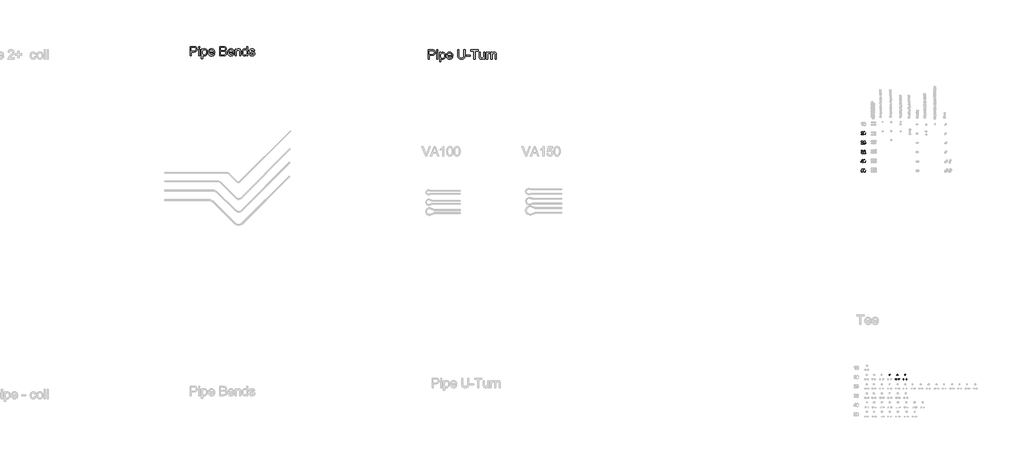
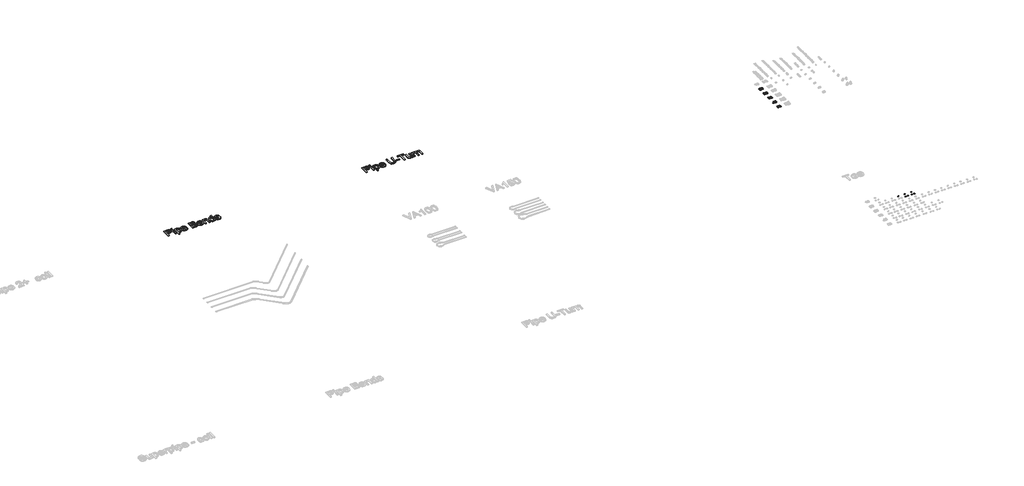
# One storey, part 21 of 26: 14 proxies.
"""IFC4 building model written with IfcOpenShell, lengths in millimetres."""

from ifc_helpers import new_model, si_unit, origin, origin_with_axes, place, context, project, spatial, polyline, outline, extrude, element, save

model = new_model("IFC4")

# Units and contexts
model_context = context("Model", 3, world=origin())
ifc_project = project(units=[si_unit("LENGTHUNIT", "METRE", prefix="MILLI")], contexts=[model_context])

# Site, building, storey
site = spatial("IfcSite", under=ifc_project)
building = spatial("IfcBuilding", under=site)
storey = spatial("IfcBuildingStorey", under=building, Name="Superpipe UFH", Elevation=0.0)

# Proxies
placement = place(None, origin())
element("IfcBuildingElementProxy", 1, Name="100mm Arial", ObjectType="100mm Arial", at=placement, inside=storey, context=model_context, shape_type="SweptSolid", body=[
    extrude(outline(polyline([(25462.3564217, 31886.1330588), (25462.3564217, 31873.57602), (25396.4319682, 31873.57602), (25397.7808688, 31882.2335096), (25405.4082889, 31895.5631006), (25421.1291128, 31910.1189648), (25442.809625, 31931.0391876), (25448.2297531, 31945.2639581), (25443.1161934, 31956.7786646), (25429.762077, 31961.4752914), (25415.8438748, 31956.8890292), (25410.5586368, 31944.2093631), (25398.001598, 31945.7789929), (25401.0458215, 31957.9252301), (25407.6278436, 31966.7973176), (25417.4043076, 31972.223577), (25430.0318571, 31974.0323301), (25442.7513771, 31972.0212419), (25452.509447, 31965.9879772), (25458.7174557, 31956.9748683), (25460.7867919, 31946.0242476), (25458.5549744, 31934.1171337), (25451.1360209, 31921.8053496), (25433.1465913, 31904.6007349), (25418.7010916, 31892.5219427), (25413.0357089, 31886.1330588), (25462.3564217, 31886.1330588)])), origin_with_axes(), (0.0, 0.0, 1.0), 2.0),
    extrude(outline(polyline([(25474.9134605, 31922.9948347), (25478.6045432, 31951.8980968), (25489.5674266, 31968.5631511), (25507.8756873, 31974.0323301), (25522.5419161, 31970.7949686), (25532.6709337, 31961.4630286), (25538.5570457, 31946.600596), (25540.837914, 31922.9948347), (25537.1836195, 31894.2141999), (25526.2575243, 31877.5123573), (25518.0261646, 31873.3828819), (25507.8756873, 31872.0063901), (25494.8281392, 31874.3976231), (25484.9198508, 31881.571322), (25477.4150581, 31898.5613388), (25474.9134605, 31922.9948347)]), holes=[polyline([(25487.4704993, 31923.0193601), (25488.9420272, 31903.2671627), (25493.3566112, 31891.8352297), (25499.9294362, 31886.3813791), (25507.8756873, 31884.5634289), (25515.8219384, 31886.3875105), (25522.3947633, 31891.8597551), (25526.8093473, 31903.2978195), (25528.2808753, 31923.0193601), (25526.8583982, 31942.3270335), (25522.5909671, 31953.8478713), (25516.0304048, 31959.5684364), (25507.7285345, 31961.4752914), (25499.8681225, 31959.7952969), (25493.5528149, 31954.7553136), (25488.9910782, 31942.5171059), (25487.4704993, 31923.0193601)])]), origin_with_axes(), (0.0, 0.0, 1.0), 2.0),
])
element("IfcBuildingElementProxy", 2, Name="100mm Arial", ObjectType="100mm Arial", at=placement, inside=storey, context=model_context, shape_type="SweptSolid", body=[
    extrude(outline(polyline([(25462.3564217, 31586.1330588), (25462.3564217, 31573.57602), (25396.4319682, 31573.57602), (25397.7808688, 31582.2335096), (25405.4082889, 31595.5631006), (25421.1291128, 31610.1189648), (25442.809625, 31631.0391876), (25448.2297531, 31645.2639581), (25443.1161934, 31656.7786646), (25429.762077, 31661.4752914), (25415.8438748, 31656.8890292), (25410.5586368, 31644.2093631), (25398.001598, 31645.7789929), (25401.0458215, 31657.9252301), (25407.6278436, 31666.7973176), (25417.4043076, 31672.223577), (25430.0318571, 31674.0323301), (25442.7513771, 31672.0212419), (25452.509447, 31665.9879772), (25458.7174557, 31656.9748683), (25460.7867919, 31646.0242476), (25458.5549744, 31634.1171337), (25451.1360209, 31621.8053496), (25433.1465913, 31604.6007349), (25418.7010916, 31592.5219427), (25413.0357089, 31586.1330588), (25462.3564217, 31586.1330588)])), origin_with_axes(), (0.0, 0.0, 1.0), 2.0),
    extrude(outline(polyline([(25474.9134605, 31600.2597274), (25487.4704993, 31601.8293572), (25493.7980696, 31588.8921737), (25506.9191941, 31584.5634289), (25515.9200402, 31586.0686794), (25522.6645435, 31590.5844309), (25526.8767923, 31597.5895172), (25528.2808753, 31606.5627722), (25523.0201627, 31621.4742558), (25516.4136152, 31625.57614), (25507.1153978, 31626.9434348), (25496.0912007, 31624.7606682), (25489.0401291, 31619.0952855), (25476.4830903, 31620.6649154), (25487.4704993, 31672.4627003), (25536.1290245, 31672.4627003), (25536.1290245, 31659.9056615), (25497.6240423, 31659.9056615), (25492.2529652, 31632.2409355), (25501.2231545, 31637.685589), (25510.6225395, 31639.5004735), (25522.3549095, 31637.250262), (25532.0945853, 31630.4996274), (25538.6520818, 31620.2111942), (25540.837914, 31607.3475871), (25538.8697454, 31594.7905484), (25532.9652393, 31584.0483941), (25521.6589993, 31575.0168911), (25506.8701431, 31572.0063901), (25494.5368993, 31573.9408363), (25484.7113843, 31579.7441748), (25477.9760781, 31588.7419552), (25474.9134605, 31600.2597274)])), origin_with_axes(), (0.0, 0.0, 1.0), 2.0),
])
element("IfcBuildingElementProxy", 3, Name="100mm Arial", ObjectType="100mm Arial", at=placement, inside=storey, context=model_context, shape_type="SweptSolid", body=[
    extrude(outline(polyline([(25398.001598, 31300.2597274), (25410.5586368, 31301.8293572), (25417.487081, 31288.6101309), (25430.44879, 31284.5634289), (25439.0572287, 31285.9552491), (25445.7036301, 31290.1307098), (25451.3690128, 31303.9140219), (25445.752681, 31316.9002563), (25431.4788596, 31322.0383415), (25422.6742172, 31320.6649154), (25424.0721688, 31333.2219541), (25426.083257, 31333.0748013), (25440.3325529, 31336.6800449), (25445.0782307, 31341.2540444), (25446.6601233, 31347.7655557), (25442.0738611, 31357.588005), (25430.2525863, 31361.4752914), (25418.2841587, 31357.5512168), (25412.1282667, 31345.7789929), (25399.5712279, 31347.3486228), (25403.2684419, 31358.6242059), (25409.8473983, 31367.0425722), (25418.8482444, 31372.2848907), (25429.8111279, 31374.0323301), (25444.9556034, 31370.5865021), (25455.5506048, 31361.168723), (25459.217162, 31348.5013197), (25455.7345458, 31336.9252996), (25445.4338499, 31328.6111665), (25459.1190602, 31320.0272532), (25463.9260516, 31303.6932927), (25461.5225559, 31291.455085), (25454.3120688, 31281.2279655), (25443.4288931, 31274.311784), (25430.0073316, 31272.0063901), (25417.8672258, 31273.9745588), (25407.9834628, 31279.8790648), (25401.1102009, 31288.9105678), (25398.001598, 31300.2597274)])), origin_with_axes(), (0.0, 0.0, 1.0), 2.0),
    extrude(outline(polyline([(25539.2682842, 31286.1330588), (25539.2682842, 31273.57602), (25473.3438306, 31273.57602), (25474.6927313, 31282.2335096), (25482.3201513, 31295.5631006), (25498.0409753, 31310.1189648), (25519.7214875, 31331.0391876), (25525.1416156, 31345.2639581), (25520.0280558, 31356.7786646), (25506.6739394, 31361.4752914), (25492.7557373, 31356.8890292), (25487.4704993, 31344.2093631), (25474.9134605, 31345.7789929), (25477.957684, 31357.9252301), (25484.539706, 31366.7973176), (25494.3161701, 31372.223577), (25506.9437195, 31374.0323301), (25519.6632395, 31372.0212419), (25529.4213094, 31365.9879772), (25535.6293181, 31356.9748683), (25537.6986543, 31346.0242476), (25535.4668369, 31334.1171337), (25528.0478833, 31321.8053496), (25510.0584538, 31304.6007349), (25495.6129541, 31292.5219427), (25489.9475714, 31286.1330588), (25539.2682842, 31286.1330588)])), origin_with_axes(), (0.0, 0.0, 1.0), 2.0),
])
element("IfcBuildingElementProxy", 4, Name="100mm Arial", ObjectType="100mm Arial", at=placement, inside=storey, context=model_context, shape_type="SweptSolid", body=[
    extrude(outline(polyline([(25438.811974, 30973.57602), (25438.811974, 30997.1204677), (25393.2927085, 30997.1204677), (25393.2927085, 31009.6775064), (25441.9512337, 31072.4627003), (25451.3690128, 31072.4627003), (25451.3690128, 31009.6775064), (25463.9260516, 31009.6775064), (25463.9260516, 30997.1204677), (25451.3690128, 30997.1204677), (25451.3690128, 30973.57602), (25438.811974, 30973.57602)]), holes=[polyline([(25438.811974, 31009.6775064), (25438.811974, 31048.4767942), (25408.7437523, 31009.6775064), (25438.811974, 31009.6775064)])]), origin_with_axes(), (0.0, 0.0, 1.0), 2.0),
    extrude(outline(polyline([(25474.9134605, 31022.9948347), (25478.6045432, 31051.8980968), (25489.5674266, 31068.5631511), (25507.8756873, 31074.0323301), (25522.5419161, 31070.7949686), (25532.6709337, 31061.4630286), (25538.5570457, 31046.600596), (25540.837914, 31022.9948347), (25537.1836195, 30994.2141999), (25526.2575243, 30977.5123573), (25518.0261646, 30973.3828819), (25507.8756873, 30972.0063901), (25494.8281392, 30974.3976231), (25484.9198508, 30981.571322), (25477.4150581, 30998.5613388), (25474.9134605, 31022.9948347)]), holes=[polyline([(25487.4704993, 31023.0193601), (25488.9420272, 31003.2671627), (25493.3566112, 30991.8352297), (25499.9294362, 30986.3813791), (25507.8756873, 30984.5634289), (25515.8219384, 30986.3875105), (25522.3947633, 30991.8597551), (25526.8093473, 31003.2978195), (25528.2808753, 31023.0193601), (25526.8583982, 31042.3270335), (25522.5909671, 31053.8478713), (25516.0304048, 31059.5684364), (25507.7285345, 31061.4752914), (25499.8681225, 31059.7952969), (25493.5528149, 31054.7553136), (25488.9910782, 31042.5171059), (25487.4704993, 31023.0193601)])]), origin_with_axes(), (0.0, 0.0, 1.0), 2.0),
])
element("IfcBuildingElementProxy", 5, Name="100mm Arial", ObjectType="100mm Arial", at=placement, inside=storey, context=model_context, shape_type="SweptSolid", body=[
    extrude(outline(polyline([(25398.001598, 30700.2597274), (25410.5586368, 30701.8293572), (25416.8862071, 30688.8921737), (25430.0073316, 30684.5634289), (25439.0081778, 30686.0686794), (25445.752681, 30690.5844309), (25449.9649299, 30697.5895172), (25451.3690128, 30706.5627722), (25446.1083003, 30721.4742558), (25439.5017528, 30725.57614), (25430.2035353, 30726.9434348), (25419.1793382, 30724.7606682), (25412.1282667, 30719.0952855), (25399.5712279, 30720.6649154), (25410.5586368, 30772.4627003), (25459.217162, 30772.4627003), (25459.217162, 30759.9056615), (25420.7121799, 30759.9056615), (25415.3411027, 30732.2409355), (25424.3112921, 30737.685589), (25433.710677, 30739.5004735), (25445.443047, 30737.250262), (25455.1827228, 30730.4996274), (25461.7402194, 30720.2111942), (25463.9260516, 30707.3475871), (25461.9578829, 30694.7905484), (25456.0533769, 30684.0483941), (25444.7471369, 30675.0168911), (25429.9582807, 30672.0063901), (25417.6250368, 30673.9408363), (25407.7995218, 30679.7441748), (25401.0642156, 30688.7419552), (25398.001598, 30700.2597274)])), origin_with_axes(), (0.0, 0.0, 1.0), 2.0),
    extrude(outline(polyline([(25474.9134605, 30722.9948347), (25478.6045432, 30751.8980968), (25489.5674266, 30768.5631511), (25507.8756873, 30774.0323301), (25522.5419161, 30770.7949686), (25532.6709337, 30761.4630286), (25538.5570457, 30746.600596), (25540.837914, 30722.9948347), (25537.1836195, 30694.2141999), (25526.2575243, 30677.5123573), (25518.0261646, 30673.3828819), (25507.8756873, 30672.0063901), (25494.8281392, 30674.3976231), (25484.9198508, 30681.571322), (25477.4150581, 30698.5613388), (25474.9134605, 30722.9948347)]), holes=[polyline([(25487.4704993, 30723.0193601), (25488.9420272, 30703.2671627), (25493.3566112, 30691.8352297), (25499.9294362, 30686.3813791), (25507.8756873, 30684.5634289), (25515.8219384, 30686.3875105), (25522.3947633, 30691.8597551), (25526.8093473, 30703.2978195), (25528.2808753, 30723.0193601), (25526.8583982, 30742.3270335), (25522.5909671, 30753.8478713), (25516.0304048, 30759.5684364), (25507.7285345, 30761.4752914), (25499.8681225, 30759.7952969), (25493.5528149, 30754.7553136), (25488.9910782, 30742.5171059), (25487.4704993, 30723.0193601)])]), origin_with_axes(), (0.0, 0.0, 1.0), 2.0),
])
element("IfcBuildingElementProxy", 6, Name="30mm Arial", ObjectType="30mm Arial", at=placement, inside=storey, context=model_context, shape_type="SweptSolid", body=[
    extrude(outline(polyline([(26315.1767601, 24128.6157156), (26315.1767601, 24124.848604), (26295.399424, 24124.848604), (26295.8040942, 24127.4458509), (26298.0923202, 24131.4447281), (26302.8085674, 24135.8114874), (26309.3127211, 24142.0875543), (26310.9387595, 24146.3549854), (26309.4046916, 24149.8093973), (26305.3984567, 24151.2183854), (26301.222996, 24149.8425067), (26299.6374246, 24146.0386069), (26295.870313, 24146.5094959), (26298.7581867, 24152.8149932), (26305.4793907, 24154.985497), (26312.2226677, 24152.5721911), (26314.7058711, 24146.5830723), (26314.0363259, 24143.0109381), (26311.8106398, 24139.3174028), (26306.413811, 24134.1560185), (26302.0801611, 24130.5323808), (26300.3805463, 24128.6157156), (26315.1767601, 24128.6157156)])), origin_with_axes(), (0.0, 0.0, 1.0), 2.0),
    extrude(outline(polyline([(26318.9438717, 24139.6742484), (26320.0511965, 24148.345227), (26323.3400616, 24153.3447433), (26328.8325398, 24154.985497), (26333.2324084, 24154.0142886), (26336.2711137, 24151.2147066), (26338.0369473, 24146.7559768), (26338.7212078, 24139.6742484), (26337.6249194, 24131.040058), (26334.3470909, 24126.0295052), (26328.8325398, 24124.377715), (26321.9457888, 24127.2471946), (26318.9438717, 24139.6742484)]), holes=[polyline([(26322.7109834, 24139.681606), (26324.4768169, 24130.3263669), (26328.8325398, 24128.1448267), (26333.1882626, 24130.3337245), (26334.9540962, 24139.681606), (26333.2471237, 24148.9301594), (26328.7883939, 24151.2183854), (26324.5356781, 24149.2023921), (26322.7109834, 24139.681606)])]), origin_with_axes(), (0.0, 0.0, 1.0), 2.0),
])
element("IfcBuildingElementProxy", 7, Name="30mm Arial", ObjectType="30mm Arial", at=placement, inside=storey, context=model_context, shape_type="SweptSolid", body=[
    extrude(outline(polyline([(26513.3488961, 23988.5299634), (26509.5817845, 23988.5299634), (26509.5817845, 24012.01555), (26506.0133291, 24009.4734854), (26502.0475612, 24007.5715355), (26502.0475612, 24011.1326332), (26507.56947, 24014.6569427), (26510.9208749, 24018.6668565), (26513.3488961, 24018.6668565), (26513.3488961, 23988.5299634)])), origin_with_axes(), (0.0, 0.0, 1.0), 2.0),
    extrude(outline(polyline([(26541.6022333, 24010.6617442), (26537.8351217, 24010.1908553), (26536.4077396, 24013.3325675), (26532.6332703, 24014.8997448), (26529.2340407, 24013.9873975), (26526.6625455, 24010.5624161), (26525.5920089, 24003.8485697), (26528.9139833, 24006.8541656), (26533.0305829, 24007.8364105), (26539.4317296, 24005.150872), (26542.0731223, 23998.2126175), (26540.8296812, 23993.0144449), (26537.4083786, 23989.335625), (26532.4714022, 23988.0590745), (26524.793705, 23991.4435888), (26521.8248973, 24002.5977709), (26525.12112, 24015.2308386), (26532.8687148, 24018.6668565), (26538.8210455, 24016.5404985), (26541.6022333, 24010.6617442)]), holes=[polyline([(26525.5920089, 23998.2714786), (26526.4638892, 23995.0083653), (26528.7815458, 23992.6392053), (26532.1770966, 23991.8261861), (26536.6174323, 23993.5110856), (26538.3060107, 23998.0875376), (26536.6395052, 24002.4690122), (26532.0225862, 24004.0692989), (26527.4645283, 24002.4690122), (26525.5920089, 23998.2714786)])]), origin_with_axes(), (0.0, 0.0, 1.0), 2.0),
])
element("IfcBuildingElementProxy", 8, Name="30mm Arial", ObjectType="30mm Arial", at=placement, inside=storey, context=model_context, shape_type="SweptSolid", body=[
    extrude(outline(polyline([(26607.0988961, 23988.5299634), (26603.3317845, 23988.5299634), (26603.3317845, 24012.01555), (26599.7633291, 24009.4734854), (26595.7975612, 24007.5715355), (26595.7975612, 24011.1326332), (26601.31947, 24014.6569427), (26604.6708749, 24018.6668565), (26607.0988961, 24018.6668565), (26607.0988961, 23988.5299634)])), origin_with_axes(), (0.0, 0.0, 1.0), 2.0),
    extrude(outline(polyline([(26635.3522333, 24010.6617442), (26631.5851217, 24010.1908553), (26630.1577396, 24013.3325675), (26626.3832703, 24014.8997448), (26622.9840407, 24013.9873975), (26620.4125455, 24010.5624161), (26619.3420089, 24003.8485697), (26622.6639833, 24006.8541656), (26626.7805829, 24007.8364105), (26633.1817296, 24005.150872), (26635.8231223, 23998.2126175), (26634.5796812, 23993.0144449), (26631.1583786, 23989.335625), (26626.2214022, 23988.0590745), (26618.543705, 23991.4435888), (26615.5748973, 24002.5977709), (26618.87112, 24015.2308386), (26626.6187148, 24018.6668565), (26632.5710455, 24016.5404985), (26635.3522333, 24010.6617442)]), holes=[polyline([(26619.3420089, 23998.2714786), (26620.2138892, 23995.0083653), (26622.5315458, 23992.6392053), (26625.9270966, 23991.8261861), (26630.3674323, 23993.5110856), (26632.0560107, 23998.0875376), (26630.3895052, 24002.4690122), (26625.7725862, 24004.0692989), (26621.2145283, 24002.4690122), (26619.3420089, 23998.2714786)])]), origin_with_axes(), (0.0, 0.0, 1.0), 2.0),
])
element("IfcBuildingElementProxy", 9, Name="30mm Arial", ObjectType="30mm Arial", at=placement, inside=storey, context=model_context, shape_type="SweptSolid", body=[
    extrude(outline(polyline([(26565.4568594, 24128.6157156), (26565.4568594, 24124.848604), (26545.6795233, 24124.848604), (26546.0841935, 24127.4458509), (26548.3724196, 24131.4447281), (26553.0886667, 24135.8114874), (26559.5928204, 24142.0875543), (26561.2188588, 24146.3549854), (26559.6847909, 24149.8093973), (26555.678556, 24151.2183854), (26551.5030953, 24149.8425067), (26549.9175239, 24146.0386069), (26546.1504123, 24146.5094959), (26549.038286, 24152.8149932), (26555.75949, 24154.985497), (26562.502767, 24152.5721911), (26564.9859705, 24146.5830723), (26564.3164252, 24143.0109381), (26562.0907392, 24139.3174028), (26556.6939103, 24134.1560185), (26552.3602604, 24130.5323808), (26550.6606456, 24128.6157156), (26565.4568594, 24128.6157156)])), origin_with_axes(), (0.0, 0.0, 1.0), 2.0),
    extrude(outline(polyline([(26569.223971, 24139.6742484), (26570.3312958, 24148.345227), (26573.6201609, 24153.3447433), (26579.1126391, 24154.985497), (26583.5125077, 24154.0142886), (26586.551213, 24151.2147066), (26588.3170466, 24146.7559768), (26589.0013071, 24139.6742484), (26587.9050188, 24131.040058), (26584.6271902, 24126.0295052), (26579.1126391, 24124.377715), (26572.2258881, 24127.2471946), (26569.223971, 24139.6742484)]), holes=[polyline([(26572.9910827, 24139.681606), (26574.7569162, 24130.3263669), (26579.1126391, 24128.1448267), (26583.4683619, 24130.3337245), (26585.2341955, 24139.681606), (26583.527223, 24148.9301594), (26579.0684932, 24151.2183854), (26574.8157774, 24149.2023921), (26572.9910827, 24139.681606)])]), origin_with_axes(), (0.0, 0.0, 1.0), 2.0),
])
element("IfcBuildingElementProxy", 10, Name="30mm Arial", ObjectType="30mm Arial", at=placement, inside=storey, context=model_context, shape_type="SweptSolid", body=[
    extrude(outline(polyline([(26768.8087739, 23992.297075), (26768.8087739, 23988.5299634), (26749.0314379, 23988.5299634), (26749.436108, 23991.1272103), (26751.7243341, 23995.1260876), (26756.4405812, 23999.4928469), (26762.9447349, 24005.7689137), (26764.5707733, 24010.0363449), (26763.0367054, 24013.4907568), (26759.0304705, 24014.8997448), (26754.8550098, 24013.5238662), (26753.2694384, 24009.7199663), (26749.5023268, 24010.1908553), (26752.3902005, 24016.4963527), (26759.1114045, 24018.6668565), (26765.8546815, 24016.2535506), (26768.337885, 24010.2644317), (26767.6683397, 24006.6922975), (26765.4426537, 24002.9987623), (26760.0458248, 23997.8373779), (26755.7121749, 23994.2137402), (26754.0125601, 23992.297075), (26768.8087739, 23992.297075)])), origin_with_axes(), (0.0, 0.0, 1.0), 2.0),
    extrude(outline(polyline([(26772.5758855, 24003.3556078), (26773.6832103, 24012.0265864), (26776.9720754, 24017.0261028), (26782.4645536, 24018.6668565), (26786.8644222, 24017.695648), (26789.9031275, 24014.896066), (26791.6689611, 24010.4373362), (26792.3532216, 24003.3556078), (26791.2569333, 23994.7214174), (26787.9791047, 23989.7108646), (26782.4645536, 23988.0590745), (26775.5778026, 23990.928554), (26772.5758855, 24003.3556078)]), holes=[polyline([(26776.3429972, 24003.3629655), (26778.1088308, 23994.0077263), (26782.4645536, 23991.8261861), (26786.8202764, 23994.015084), (26788.58611, 24003.3629655), (26786.8791375, 24012.6115188), (26782.4204077, 24014.8997448), (26778.1676919, 24012.8837515), (26776.3429972, 24003.3629655)])]), origin_with_axes(), (0.0, 0.0, 1.0), 2.0),
])
element("IfcBuildingElementProxy", 11, Name="30mm Arial", ObjectType="30mm Arial", at=placement, inside=storey, context=model_context, shape_type="SweptSolid", body=[
    extrude(outline(polyline([(26862.5587739, 23992.297075), (26862.5587739, 23988.5299634), (26842.7814379, 23988.5299634), (26843.186108, 23991.1272103), (26845.4743341, 23995.1260876), (26850.1905812, 23999.4928469), (26856.6947349, 24005.7689137), (26858.3207733, 24010.0363449), (26856.7867054, 24013.4907568), (26852.7804705, 24014.8997448), (26848.6050098, 24013.5238662), (26847.0194384, 24009.7199663), (26843.2523268, 24010.1908553), (26846.1402005, 24016.4963527), (26852.8614045, 24018.6668565), (26859.6046815, 24016.2535506), (26862.087885, 24010.2644317), (26861.4183397, 24006.6922975), (26859.1926537, 24002.9987623), (26853.7958248, 23997.8373779), (26849.4621749, 23994.2137402), (26847.7625601, 23992.297075), (26862.5587739, 23992.297075)])), origin_with_axes(), (0.0, 0.0, 1.0), 2.0),
    extrude(outline(polyline([(26866.3258855, 24003.3556078), (26867.4332103, 24012.0265864), (26870.7220754, 24017.0261028), (26876.2145536, 24018.6668565), (26880.6144222, 24017.695648), (26883.6531275, 24014.896066), (26885.4189611, 24010.4373362), (26886.1032216, 24003.3556078), (26885.0069333, 23994.7214174), (26881.7291047, 23989.7108646), (26876.2145536, 23988.0590745), (26869.3278026, 23990.928554), (26866.3258855, 24003.3556078)]), holes=[polyline([(26870.0929972, 24003.3629655), (26871.8588308, 23994.0077263), (26876.2145536, 23991.8261861), (26880.5702764, 23994.015084), (26882.33611, 24003.3629655), (26880.6291375, 24012.6115188), (26876.1704077, 24014.8997448), (26871.9176919, 24012.8837515), (26870.0929972, 24003.3629655)])]), origin_with_axes(), (0.0, 0.0, 1.0), 2.0),
])
element("IfcBuildingElementProxy", 12, Name="30mm Arial", ObjectType="30mm Arial", at=placement, inside=storey, context=model_context, shape_type="SweptSolid", body=[
    extrude(outline(polyline([(26810.5571802, 24124.848604), (26806.7900686, 24124.848604), (26806.7900686, 24148.3341905), (26803.2216132, 24145.792126), (26799.2558453, 24143.890176), (26799.2558453, 24147.4512738), (26804.7777541, 24150.9755833), (26808.1291591, 24154.985497), (26810.5571802, 24154.985497), (26810.5571802, 24124.848604)])), origin_with_axes(), (0.0, 0.0, 1.0), 2.0),
    extrude(outline(polyline([(26838.8105175, 24146.9803848), (26835.0434058, 24146.5094959), (26833.6160237, 24149.6512081), (26829.8415544, 24151.2183854), (26826.4423248, 24150.306038), (26823.8708296, 24146.8810567), (26822.800293, 24140.1672103), (26826.1222674, 24143.1728062), (26830.238867, 24144.1550511), (26836.6400137, 24141.4695125), (26839.2814064, 24134.5312581), (26838.0379653, 24129.3330855), (26834.6166627, 24125.6542655), (26829.6796863, 24124.377715), (26822.0019891, 24127.7622294), (26819.0331814, 24138.9164115), (26822.3294041, 24151.5494792), (26830.0769989, 24154.985497), (26836.0293296, 24152.8591391), (26838.8105175, 24146.9803848)]), holes=[polyline([(26822.800293, 24134.5901192), (26823.6721734, 24131.3270059), (26825.9898299, 24128.9578459), (26829.3853807, 24128.1448267), (26833.8257164, 24129.8297262), (26835.5142948, 24134.4061782), (26833.8477893, 24138.7876528), (26829.2308703, 24140.3879395), (26824.6728124, 24138.7876528), (26822.800293, 24134.5901192)])]), origin_with_axes(), (0.0, 0.0, 1.0), 2.0),
])
element("IfcBuildingElementProxy", 13, Name="600mm Arial", ObjectType="600mm Arial", at=placement, inside=storey, context=model_context, shape_type="SweptSolid", body=[
    extrude(outline(polyline([(3818.0197435, 34414.0383377), (3818.0197435, 34715.4072681), (3929.7087172, 34715.4072681), (3974.7374734, 34712.5377886), (3994.8146333, 34707.1759085), (4011.3417319, 34698.4479082), (4024.6498631, 34685.9583144), (4035.0701206, 34669.3116541), (4041.8023611, 34649.6759527), (4044.0464413, 34628.2192353), (4042.5312273, 34609.7193695), (4037.9855854, 34592.7002286), (4030.4095156, 34577.1618129), (4019.8030178, 34563.1041221), (4005.2417886, 34551.4514599), (3985.8015244, 34543.1281298), (3961.4822253, 34538.1341317), (3932.2838912, 34536.4694657), (3855.6908598, 34536.4694657), (3855.6908598, 34414.0383377), (3818.0197435, 34414.0383377)]), holes=[polyline([(3855.6908598, 34574.140582), (3934.4911831, 34574.140582), (3967.8948683, 34577.5986727), (3989.967788, 34587.972945), (4002.2734407, 34604.6196053), (4006.375325, 34626.8948601), (4003.9565009, 34643.8174319), (3996.7000285, 34658.0912533), (3985.5072188, 34668.8334076), (3971.2793827, 34675.1609779), (3933.6082663, 34677.7361518), (3855.6908598, 34677.7361518), (3855.6908598, 34574.140582)])]), origin_with_axes(), (0.0, 0.0, 1.0), 30.0),
    extrude(outline(polyline([(4091.1353367, 34414.0383377), (4091.1353367, 34635.356146), (4128.806453, 34635.356146), (4128.806453, 34414.0383377), (4091.1353367, 34414.0383377)])), origin_with_axes(), (0.0, 0.0, 1.0), 30.0),
    extrude(outline(polyline([(4091.1353367, 34677.7361518), (4091.1353367, 34715.4072681), (4128.806453, 34715.4072681), (4128.806453, 34677.7361518), (4091.1353367, 34677.7361518)])), origin_with_axes(), (0.0, 0.0, 1.0), 30.0),
    extrude(outline(polyline([(4185.3131274, 34329.278326), (4185.3131274, 34635.356146), (4222.9842438, 34635.356146), (4222.9842438, 34598.4207937), (4235.2715024, 34616.6401495), (4249.030289, 34629.6539751), (4265.069944, 34637.4622704), (4284.1998078, 34640.0650355), (4309.6756359, 34636.4230038), (4331.9508907, 34625.4969085), (4350.0874731, 34607.9489373), (4363.1472839, 34584.4412779), (4371.0383527, 34556.6845813), (4373.668709, 34526.389499), (4370.6980619, 34494.1722333), (4361.7861205, 34465.357876), (4347.2179935, 34441.4087581), (4327.2787894, 34423.7872106), (4304.0562384, 34412.9438888), (4279.638071, 34409.3294482), (4262.3200261, 34411.7482723), (4246.8597852, 34419.0047446), (4233.6252305, 34429.958431), (4222.9842438, 34443.4688973), (4222.9842438, 34329.278326), (4185.3131274, 34329.278326)]), holes=[polyline([(4222.9842438, 34522.9314083), (4227.0585368, 34489.1598411), (4239.2814161, 34465.541817), (4257.316831, 34451.6358776), (4278.8287306, 34447.0005645), (4300.6901182, 34451.8014245), (4319.1853855, 34466.2040046), (4331.7945409, 34490.6865514), (4335.9975927, 34525.7273114), (4331.8957084, 34559.3149376), (4319.5900557, 34583.2640555), (4301.582232, 34597.6114533), (4280.373835, 34602.3939192), (4259.0826645, 34597.3079506), (4240.3850621, 34582.0500449), (4227.3344483, 34557.0984486), (4222.9842438, 34522.9314083)])]), origin_with_axes(), (0.0, 0.0, 1.0), 30.0),
    extrude(outline(polyline([(4571.0006112, 34479.9627912), (4607.9359635, 34475.2539017), (4594.6278323, 34447.4236288), (4573.3918442, 34426.6199019), (4544.7062456, 34413.6520616), (4509.0492832, 34409.3294482), (4485.6749809, 34411.19415), (4464.8482615, 34416.7882556), (4446.5691248, 34426.1117649), (4430.837571, 34439.164678), (4418.1870289, 34455.5837113), (4409.1509274, 34475.0055813), (4403.7292665, 34497.4302882), (4401.9220462, 34522.8578319), (4403.7476606, 34549.1475989), (4409.2245038, 34572.3195661), (4418.3525758, 34592.3737334), (4431.1318766, 34609.3101007), (4446.8220437, 34622.7653847), (4464.6827146, 34632.3763018), (4484.7138892, 34638.1428521), (4506.9155676, 34640.0650355), (4528.4021754, 34638.1474506), (4547.8332425, 34632.3946959), (4565.208769, 34622.8067714), (4580.5287549, 34609.3836771), (4593.0344434, 34592.484098), (4601.9670781, 34572.4667189), (4607.326659, 34549.3315399), (4609.1131859, 34523.0785611), (4608.8924567, 34512.925018), (4439.5931625, 34512.925018), (4446.1138709, 34484.7268631), (4461.261412, 34463.9967126), (4483.1227996, 34451.2496015), (4509.7850472, 34447.0005645), (4529.8346159, 34448.9687331), (4546.7203995, 34454.8732392), (4560.4423979, 34465.0819645), (4571.0006112, 34479.9627912)]), holes=[polyline([(4439.5931625, 34550.5961343), (4571.4420696, 34550.5961343), (4566.346904, 34570.4985502), (4556.3589078, 34584.7355835), (4534.3963527, 34597.9793353), (4506.7684148, 34602.3939192), (4481.3753601, 34598.8714491), (4460.3784952, 34588.3040388), (4445.7827771, 34571.8321225), (4439.5931625, 34550.5961343)])]), origin_with_axes(), (0.0, 0.0, 1.0), 30.0),
    extrude(outline(polyline([(4769.2154302, 34414.0383377), (4769.2154302, 34715.4072681), (4884.2153419, 34715.4072681), (4915.8439964, 34713.1907791), (4940.5380753, 34706.5413121), (4959.465604, 34695.2933201), (4973.7946077, 34679.2812562), (4982.8169136, 34660.4456981), (4985.824349, 34640.7272231), (4983.2951602, 34622.5814437), (4975.7075941, 34605.5209162), (4963.0064682, 34590.5941042), (4945.1366003, 34578.8494715), (4966.4829531, 34567.7026471), (4982.2558936, 34550.7432871), (4991.9955694, 34529.0934317), (4995.242128, 34503.8751209), (4993.025639, 34482.8598619), (4986.3761719, 34463.3713132), (4976.4525551, 34446.7982294), (4964.4136168, 34434.5293648), (4949.6707459, 34425.6450146), (4931.6353311, 34419.2254738), (4883.3324251, 34414.0383377), (4769.2154302, 34414.0383377)]), holes=[polyline([(4806.8865465, 34451.709454), (4884.1417655, 34451.709454), (4912.1007971, 34453.180982), (4935.7556094, 34461.3847505), (4951.4273824, 34478.1233813), (4956.0351044, 34489.9507874), (4957.5710117, 34503.5072389), (4955.7683899, 34519.2525883), (4950.3605246, 34532.7906457), (4940.9151544, 34543.3764501), (4927.0000179, 34550.2650405), (4907.29074, 34554.045028), (4880.4629455, 34555.3050238), (4806.8865465, 34555.3050238), (4806.8865465, 34451.709454)]), polyline([(4806.8865465, 34592.9761401), (4875.6804796, 34592.9761401), (4915.8531935, 34596.2135017), (4929.9154827, 34601.796111), (4940.0230406, 34610.1562293), (4946.1206846, 34621.165098), (4948.1532326, 34634.6939584), (4946.2586404, 34647.8273456), (4940.5748635, 34659.2684757), (4931.3594196, 34668.1988111), (4918.8698258, 34673.7998145), (4870.4565553, 34677.7361518), (4806.8865465, 34677.7361518), (4806.8865465, 34592.9761401)])]), origin_with_axes(), (0.0, 0.0, 1.0), 30.0),
    extrude(outline(polyline([(5197.2829198, 34479.9627912), (5234.2182721, 34475.2539017), (5220.9101409, 34447.4236288), (5199.6741527, 34426.6199019), (5170.9885542, 34413.6520616), (5135.3315918, 34409.3294482), (5111.9572895, 34411.19415), (5091.1305701, 34416.7882556), (5072.8514334, 34426.1117649), (5057.1198796, 34439.164678), (5044.4693375, 34455.5837113), (5035.433236, 34475.0055813), (5030.0115751, 34497.4302882), (5028.2043548, 34522.8578319), (5030.0299692, 34549.1475989), (5035.5068124, 34572.3195661), (5044.6348844, 34592.3737334), (5057.4141852, 34609.3101007), (5073.1043523, 34622.7653847), (5090.9650232, 34632.3763018), (5110.9961978, 34638.1428521), (5133.1978762, 34640.0650355), (5154.684484, 34638.1474506), (5174.1155511, 34632.3946959), (5191.4910776, 34622.8067714), (5206.8110635, 34609.3836771), (5219.316752, 34592.484098), (5228.2493867, 34572.4667189), (5233.6089675, 34549.3315399), (5235.3954945, 34523.0785611), (5235.1747653, 34512.925018), (5065.8754711, 34512.925018), (5072.3961795, 34484.7268631), (5087.5437206, 34463.9967126), (5109.4051082, 34451.2496015), (5136.0673558, 34447.0005645), (5156.1169245, 34448.9687331), (5173.0027081, 34454.8732392), (5186.7247065, 34465.0819645), (5197.2829198, 34479.9627912)]), holes=[polyline([(5065.8754711, 34550.5961343), (5197.7243782, 34550.5961343), (5192.6292125, 34570.4985502), (5182.6412164, 34584.7355835), (5160.6786613, 34597.9793353), (5133.0507234, 34602.3939192), (5107.6576687, 34598.8714491), (5086.6608038, 34588.3040388), (5072.0650857, 34571.8321225), (5065.8754711, 34550.5961343)])]), origin_with_axes(), (0.0, 0.0, 1.0), 30.0),
    extrude(outline(polyline([(5273.0666108, 34414.0383377), (5273.0666108, 34635.356146), (5310.7377271, 34635.356146), (5310.7377271, 34604.4540584), (5323.8251291, 34620.0338609), (5339.5428873, 34631.1622912), (5357.8910018, 34637.8393495), (5378.8694726, 34640.0650355), (5397.4383163, 34638.2716108), (5414.4436615, 34632.8913366), (5428.6255124, 34624.5955976), (5438.7238732, 34614.0557785), (5450.0178505, 34586.3542642), (5452.0044132, 34549.9339467), (5452.0044132, 34414.0383377), (5414.3332969, 34414.0383377), (5414.3332969, 34544.8571752), (5409.9922894, 34578.1872839), (5403.9866158, 34588.1109008), (5394.6516102, 34595.8088315), (5382.6862483, 34600.7476473), (5368.7895059, 34602.3939192), (5346.7257833, 34598.6967052), (5327.9178163, 34587.605063), (5320.4015273, 34578.5505674), (5315.0327494, 34566.1759368), (5310.7377271, 34531.4662706), (5310.7377271, 34414.0383377), (5273.0666108, 34414.0383377)])), origin_with_axes(), (0.0, 0.0, 1.0), 30.0),
    extrude(outline(polyline([(5640.3599948, 34414.0383377), (5640.3599948, 34449.5757384), (5629.0890101, 34431.9679864), (5615.4359896, 34419.3910207), (5599.4009331, 34411.8448413), (5580.9838407, 34409.3294482), (5556.6300527, 34412.9714799), (5534.3364038, 34423.8975752), (5515.4640574, 34441.3443788), (5501.374177, 34464.5485356), (5492.6001914, 34492.5719466), (5489.6755295, 34524.4765126), (5492.3702652, 34555.9856055), (5500.454472, 34584.4412779), (5513.918953, 34608.2248488), (5532.7545112, 34625.7176377), (5555.5356037, 34636.4781861), (5580.836688, 34640.0650355), (5599.2675759, 34637.4990586), (5615.5647483, 34629.8011279), (5629.3787172, 34618.0013129), (5640.3599948, 34603.1296832), (5640.3599948, 34715.4072681), (5678.0311111, 34715.4072681), (5678.0311111, 34414.0383377), (5640.3599948, 34414.0383377)]), holes=[polyline([(5527.3466459, 34524.6236654), (5531.5956829, 34490.5485956), (5544.342794, 34466.3143692), (5562.8656525, 34451.8290156), (5584.4419315, 34447.0005645), (5606.0090135, 34451.6082864), (5624.0628224, 34465.4314524), (5636.2857017, 34488.7275798), (5640.3599948, 34521.7541859), (5636.2121253, 34557.8618037), (5623.7685168, 34582.8961735), (5605.2548554, 34597.5194828), (5582.8968271, 34602.3939192), (5561.0998189, 34597.7126208), (5543.239148, 34583.6687257), (5531.3197714, 34559.5448638), (5527.3466459, 34524.6236654)])]), origin_with_axes(), (0.0, 0.0, 1.0), 30.0),
    extrude(outline(polyline([(5720.4111169, 34479.9627912), (5758.0822332, 34484.6716808), (5764.0235274, 34468.5584494), (5775.5198398, 34456.7126491), (5792.6447467, 34449.4285856), (5815.4718245, 34447.0005645), (5838.0229908, 34449.2262505), (5853.8787048, 34455.9033087), (5863.2596956, 34465.5786052), (5866.3866926, 34476.7990061), (5863.2413015, 34486.4007261), (5853.8051284, 34493.7215778), (5815.0303661, 34504.4637321), (5758.3029624, 34522.8946201), (5743.9463676, 34532.1560493), (5733.5445041, 34544.4157168), (5727.2261309, 34558.8918733), (5725.1200065, 34574.8027696), (5726.8122636, 34589.3984877), (5731.8890352, 34602.8721658), (5739.8904686, 34614.6903749), (5750.3567113, 34624.3196861), (5774.3058292, 34635.4665106), (5806.716233, 34640.0650355), (5831.235568, 34638.2164285), (5852.5543296, 34632.6706074), (5869.6976306, 34623.9701982), (5881.6905836, 34612.6578269), (5889.6368347, 34597.8965618), (5894.6400298, 34578.8494715), (5856.9689135, 34574.140582), (5852.2140387, 34585.9955793), (5842.8054567, 34594.9259147), (5828.651197, 34600.5269181), (5809.659289, 34602.3939192), (5788.0278276, 34600.6096915), (5773.6068534, 34595.2570085), (5765.4950554, 34587.5314866), (5762.7911228, 34578.6287423), (5767.2792831, 34567.6658589), (5781.3323753, 34559.3517258), (5813.7795673, 34551.3318983), (5869.0722312, 34533.5999861), (5883.6771464, 34525.1203061), (5894.7503944, 34513.5136292), (5901.7309553, 34498.7431671), (5904.0578089, 34480.7721316), (5901.3262851, 34462.1940909), (5893.1317137, 34444.7196961), (5879.7867943, 34429.7193077), (5861.6042267, 34418.5632862), (5839.6416716, 34411.6379077), (5814.9567897, 34409.3294482), (5776.9729737, 34413.7808203), (5749.2530653, 34427.1349367), (5730.748601, 34449.2446446), (5720.4111169, 34479.9627912)])), origin_with_axes(), (0.0, 0.0, 1.0), 30.0),
])
element("IfcBuildingElementProxy", 14, Name="600mm Arial", ObjectType="600mm Arial", at=placement, inside=storey, context=model_context, shape_type="SweptSolid", body=[
    extrude(outline(polyline([(11476.0748648, 34306.0567719), (11476.0748648, 34607.4257023), (11587.7638385, 34607.4257023), (11632.7925947, 34604.5562228), (11652.8697546, 34599.1943427), (11669.3968532, 34590.4663424), (11682.7049844, 34577.9767486), (11693.1252419, 34561.3300883), (11699.8574824, 34541.6943869), (11702.1015626, 34520.2376695), (11700.5863486, 34501.7378037), (11696.0407067, 34484.7186629), (11688.4646369, 34469.1802471), (11677.8581391, 34455.1225563), (11663.2969099, 34443.4698941), (11643.8566457, 34435.146564), (11619.5373466, 34430.1525659), (11590.3390125, 34428.4878999), (11513.7459811, 34428.4878999), (11513.7459811, 34306.0567719), (11476.0748648, 34306.0567719)]), holes=[polyline([(11513.7459811, 34466.1590162), (11592.5463044, 34466.1590162), (11625.9499896, 34469.617107), (11648.0229093, 34479.9913792), (11660.3285621, 34496.6380395), (11664.4304463, 34518.9132943), (11662.0116222, 34535.8358661), (11654.7551498, 34550.1096875), (11643.5623401, 34560.8518418), (11629.334504, 34567.1794121), (11591.6633877, 34569.754586), (11513.7459811, 34569.754586), (11513.7459811, 34466.1590162)])]), origin_with_axes(), (0.0, 0.0, 1.0), 30.0),
    extrude(outline(polyline([(11749.190458, 34306.0567719), (11749.190458, 34527.3745802), (11786.8615743, 34527.3745802), (11786.8615743, 34306.0567719), (11749.190458, 34306.0567719)])), origin_with_axes(), (0.0, 0.0, 1.0), 30.0),
    extrude(outline(polyline([(11749.190458, 34569.754586), (11749.190458, 34607.4257023), (11786.8615743, 34607.4257023), (11786.8615743, 34569.754586), (11749.190458, 34569.754586)])), origin_with_axes(), (0.0, 0.0, 1.0), 30.0),
    extrude(outline(polyline([(11843.3682488, 34221.2967602), (11843.3682488, 34527.3745802), (11881.0393651, 34527.3745802), (11881.0393651, 34490.4392279), (11893.3266237, 34508.6585837), (11907.0854103, 34521.6724093), (11923.1250653, 34529.4807046), (11942.2549291, 34532.0834697), (11967.7307572, 34528.441438), (11990.006012, 34517.5153427), (12008.1425944, 34499.9673716), (12021.2024052, 34476.4597121), (12029.093474, 34448.7030155), (12031.7238303, 34418.4079332), (12028.7531832, 34386.1906675), (12019.8412418, 34357.3763102), (12005.2731148, 34333.4271923), (11985.3339107, 34315.8056448), (11962.1113597, 34304.962323), (11937.6931923, 34301.3478824), (11920.3751474, 34303.7667065), (11904.9149065, 34311.0231788), (11891.6803518, 34321.9768652), (11881.0393651, 34335.4873315), (11881.0393651, 34221.2967602), (11843.3682488, 34221.2967602)]), holes=[polyline([(11881.0393651, 34414.9498425), (11885.1136582, 34381.1782753), (11897.3365374, 34357.5602512), (11915.3719523, 34343.6543118), (11936.8838519, 34339.0189987), (11958.7452395, 34343.8198587), (11977.2405068, 34358.2224388), (11989.8496622, 34382.7049856), (11994.052714, 34417.7457456), (11989.9508297, 34451.3333718), (11977.645177, 34475.2824897), (11959.6373533, 34489.6298875), (11938.4289563, 34494.4123534), (11917.1377858, 34489.3263848), (11898.4401834, 34474.0684791), (11885.3895697, 34449.1168828), (11881.0393651, 34414.9498425)])]), origin_with_axes(), (0.0, 0.0, 1.0), 30.0),
    extrude(outline(polyline([(12229.0557325, 34371.9812254), (12265.9910848, 34367.2723359), (12252.6829536, 34339.442063), (12231.4469655, 34318.6383361), (12202.7613669, 34305.6704958), (12167.1044045, 34301.3478824), (12143.7301022, 34303.2125842), (12122.9033828, 34308.8066898), (12104.6242462, 34318.1301991), (12088.8926923, 34331.1831122), (12076.2421502, 34347.6021455), (12067.2060487, 34367.0240155), (12061.7843878, 34389.4487224), (12059.9771675, 34414.8762661), (12061.8027819, 34441.1660331), (12067.2796251, 34464.3380003), (12076.4076971, 34484.3921676), (12089.1869979, 34501.3285349), (12104.877165, 34514.7838189), (12122.7378359, 34524.394736), (12142.7690105, 34530.1612863), (12164.9706889, 34532.0834697), (12186.4572967, 34530.1658848), (12205.8883638, 34524.4131301), (12223.2638903, 34514.8252056), (12238.5838762, 34501.4021113), (12251.0895647, 34484.5025322), (12260.0221994, 34464.4851531), (12265.3817803, 34441.3499741), (12267.1683072, 34415.0969953), (12266.947578, 34404.9434522), (12097.6482838, 34404.9434522), (12104.1689922, 34376.7452973), (12119.3165333, 34356.0151468), (12141.1779209, 34343.2680357), (12167.8401685, 34339.0189987), (12187.8897372, 34340.9871673), (12204.7755208, 34346.8916734), (12218.4975192, 34357.1003987), (12229.0557325, 34371.9812254)]), holes=[polyline([(12097.6482838, 34442.6145685), (12229.4971909, 34442.6145685), (12224.4020253, 34462.5169844), (12214.4140291, 34476.7540177), (12192.451474, 34489.9977695), (12164.8235361, 34494.4123534), (12139.4304814, 34490.8898833), (12118.4336165, 34480.322473), (12103.8378984, 34463.8505567), (12097.6482838, 34442.6145685)])]), origin_with_axes(), (0.0, 0.0, 1.0), 30.0),
    extrude(outline(polyline([(12625.0439121, 34607.4257023), (12662.7150284, 34607.4257023), (12662.7150284, 34433.5646714), (12660.1582485, 34392.8493316), (12652.4879089, 34361.4965886), (12638.1589052, 34337.3083474), (12615.626133, 34318.0865131), (12584.83441, 34305.5325401), (12545.7285539, 34301.3478824), (12507.4780235, 34304.9899141), (12476.8978326, 34315.9160094), (12453.9787843, 34333.7490891), (12438.7116815, 34358.1120742), (12430.130834, 34390.7891924), (12427.2705515, 34433.5646714), (12427.2705515, 34607.4257023), (12464.9416678, 34607.4257023), (12464.9416678, 34434.8890466), (12466.7994719, 34401.034706), (12472.3728841, 34377.4626672), (12482.4712449, 34361.1379036), (12497.9038946, 34349.0253889), (12518.0270397, 34341.5205962), (12542.1968868, 34339.0189987), (12580.5117966, 34343.9670115), (12594.8545959, 34350.1520275), (12605.9876248, 34358.81105), (12614.3247505, 34370.987944), (12620.2798403, 34387.7265748), (12625.0439121, 34434.8890466), (12625.0439121, 34607.4257023)])), origin_with_axes(), (0.0, 0.0, 1.0), 30.0),
    extrude(outline(polyline([(12705.0950343, 34395.5256731), (12705.0950343, 34433.1967894), (12822.8172727, 34433.1967894), (12822.8172727, 34395.5256731), (12705.0950343, 34395.5256731)])), origin_with_axes(), (0.0, 0.0, 1.0), 30.0),
    extrude(outline(polyline([(12945.2484007, 34306.0567719), (12945.2484007, 34569.754586), (12846.3617204, 34569.754586), (12846.3617204, 34607.4257023), (13081.8061973, 34607.4257023), (13081.8061973, 34569.754586), (12982.919517, 34569.754586), (12982.919517, 34306.0567719), (12945.2484007, 34306.0567719)])), origin_with_axes(), (0.0, 0.0, 1.0), 30.0),
    extrude(outline(polyline([(13260.7439998, 34306.0567719), (13260.7439998, 34344.0957702), (13247.1139718, 34325.3935693), (13231.2398638, 34312.0348543), (13213.1216755, 34304.0196253), (13192.7594071, 34301.3478824), (13174.4112926, 34303.2240805), (13157.3323709, 34308.8526751), (13143.0033672, 34317.3139609), (13132.9050064, 34327.6882332), (13121.6846056, 34355.4265356), (13119.4773136, 34390.4489016), (13119.4773136, 34527.3745802), (13157.1484299, 34527.3745802), (13157.1484299, 34408.1808138), (13159.4292983, 34369.7739335), (13164.9199371, 34356.962443), (13174.3285191, 34347.2227672), (13187.029645, 34341.0699408), (13202.3979153, 34339.0189987), (13218.6491025, 34341.115926), (13233.8518259, 34347.4067082), (13246.3874049, 34357.3119309), (13254.6371587, 34370.2521801), (13259.2172895, 34387.9748952), (13260.7439998, 34412.2275157), (13260.7439998, 34527.3745802), (13298.4151161, 34527.3745802), (13298.4151161, 34306.0567719), (13260.7439998, 34306.0567719)])), origin_with_axes(), (0.0, 0.0, 1.0), 30.0),
    extrude(outline(polyline([(13350.212901, 34306.0567719), (13350.212901, 34527.3745802), (13383.1751278, 34527.3745802), (13383.1751278, 34494.6330826), (13395.3520218, 34513.6157936), (13406.5724227, 34524.7994062), (13417.8296117, 34530.2624539), (13430.1168703, 34532.0834697), (13448.8788521, 34529.177202), (13467.9351395, 34520.4583987), (13455.3535752, 34486.6868315), (13442.1098234, 34492.480973), (13428.8660716, 34494.4123534), (13417.6180796, 34492.5545494), (13407.565704, 34486.9811371), (13399.444709, 34478.115181), (13393.9908584, 34466.3797454), (13389.4107276, 34445.3368953), (13387.8840173, 34422.3810588), (13387.8840173, 34306.0567719), (13350.212901, 34306.0567719)])), origin_with_axes(), (0.0, 0.0, 1.0), 30.0),
    extrude(outline(polyline([(13491.4795871, 34306.0567719), (13491.4795871, 34527.3745802), (13529.1507035, 34527.3745802), (13529.1507035, 34496.4724926), (13542.2381054, 34512.0522951), (13557.9558637, 34523.1807254), (13576.3039782, 34529.8577837), (13597.282449, 34532.0834697), (13615.8512927, 34530.290045), (13632.8566379, 34524.9097708), (13647.0384888, 34516.6140318), (13657.1368496, 34506.0742127), (13668.4308268, 34478.3726984), (13670.4173896, 34441.9523809), (13670.4173896, 34306.0567719), (13632.7462733, 34306.0567719), (13632.7462733, 34436.8756094), (13628.4052657, 34470.2057181), (13622.3995922, 34480.129335), (13613.0645866, 34487.8272657), (13601.0992247, 34492.7660815), (13587.2024823, 34494.4123534), (13565.1387596, 34490.7151394), (13546.3307926, 34479.6234972), (13538.8145036, 34470.5690016), (13533.4457257, 34458.194371), (13529.1507035, 34423.4847048), (13529.1507035, 34306.0567719), (13491.4795871, 34306.0567719)])), origin_with_axes(), (0.0, 0.0, 1.0), 30.0),
])

save(model, "model.ifc")
